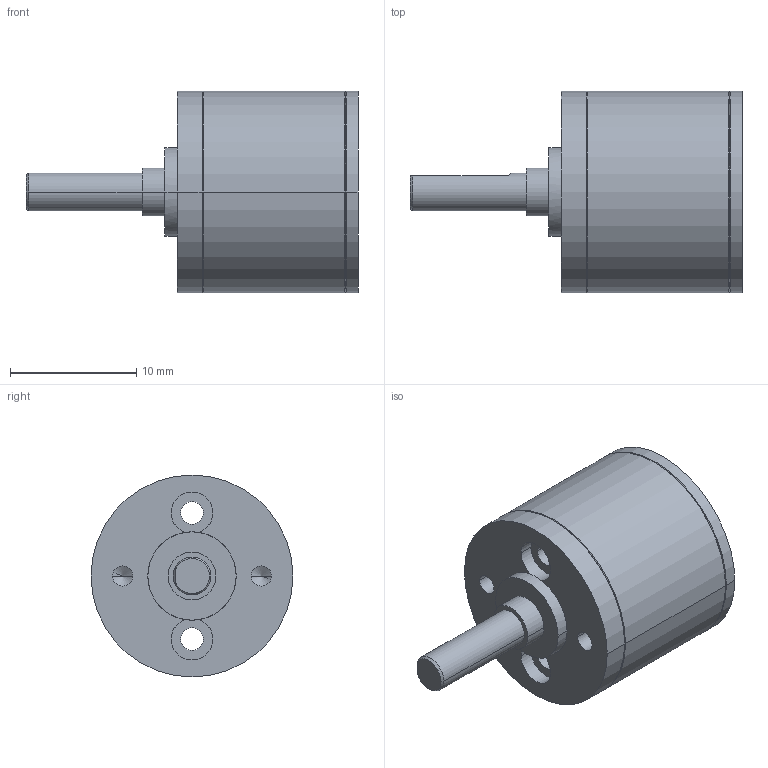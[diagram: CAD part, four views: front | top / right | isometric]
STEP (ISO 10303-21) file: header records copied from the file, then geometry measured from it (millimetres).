
FILE_DESCRIPTION((''),'2;1');
FILE_NAME('GS16V','2016-10-06T',('mmagpetk'),(''),'CREO PARAMETRIC BY PTC INC, 2016050','CREO PARAMETRIC BY PTC INC, 2016050','');
FILE_SCHEMA(('CONFIG_CONTROL_DESIGN'));
Length unit declared in the file: millimetre
Products named in the file (1): GS16V
Bounding box: 26.3 x 16 x 16 mm (x, y, z)
Volume: 2615.7 mm3; surface area: 1676.7 mm2
Topology: 1 solids, 1 shells, 51 faces, 115 edges, 68 vertices
Faces by surface type: cylinder 26, cone 13, plane 12
Entity records: 1866 total; most frequent: DIRECTION 274, CARTESIAN_POINT 242, ORIENTED_EDGE 222, AXIS2_PLACEMENT_3D 116, PRESENTATION_STYLE_ASSIGNMENT 112, STYLED_ITEM 112, CURVE_STYLE 111, EDGE_CURVE 111
